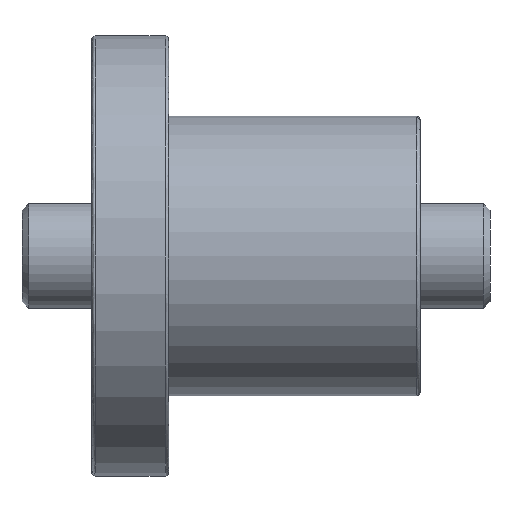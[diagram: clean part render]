
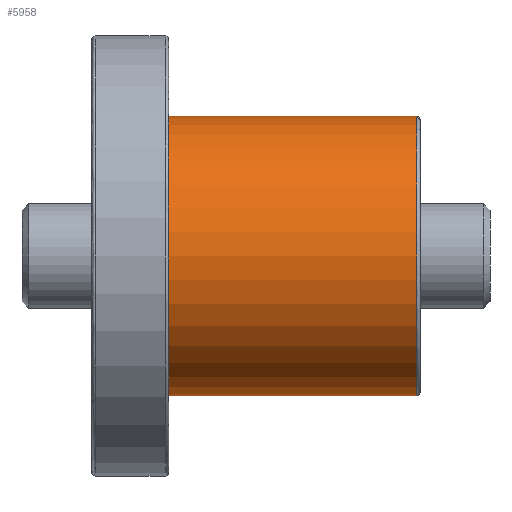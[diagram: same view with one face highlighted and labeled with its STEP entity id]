
A CAD part, front view. The second image highlights one B-rep face of the part: STEP entity #5958.
In plain terms, the highlighted cylindrical face has radius 20 mm (diameter 40 mm), a partial arc.
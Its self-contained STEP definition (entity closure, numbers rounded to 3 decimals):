
#95 = ORIENTED_EDGE ( 'NONE', *, *, #5343, .F. ) ;
#940 = VECTOR ( 'NONE', #4582, 1000. ) ;
#1010 = VERTEX_POINT ( 'NONE', #8034 ) ;
#1238 = VERTEX_POINT ( 'NONE', #3427 ) ;
#1745 = CARTESIAN_POINT ( 'NONE',  ( 11., 0., -20. ) ) ;
#2366 = LINE ( 'NONE', #4284, #3884 ) ;
#2614 = CARTESIAN_POINT ( 'NONE',  ( 11., 0., 0. ) ) ;
#2622 = EDGE_CURVE ( 'NONE', #4911, #1010, #5346, .T. ) ;
#2833 = DIRECTION ( 'NONE',  ( -1., 0., 0. ) ) ;
#2854 = CARTESIAN_POINT ( 'NONE',  ( 46.5, 0., 0. ) ) ;
#3114 = LINE ( 'NONE', #8390, #940 ) ;
#3250 = AXIS2_PLACEMENT_3D ( 'NONE', #2854, #2833, #4892 ) ;
#3297 = DIRECTION ( 'NONE',  ( 0., 0., 1. ) ) ;
#3371 = CARTESIAN_POINT ( 'NONE',  ( 47., 0., 0. ) ) ;
#3427 = CARTESIAN_POINT ( 'NONE',  ( 11., 0., 20. ) ) ;
#3809 = EDGE_CURVE ( 'NONE', #1238, #6542, #8308, .T. ) ;
#3884 = VECTOR ( 'NONE', #7435, 1000. ) ;
#3918 = DIRECTION ( 'NONE',  ( 1., 0., 0. ) ) ;
#4243 = ORIENTED_EDGE ( 'NONE', *, *, #3809, .T. ) ;
#4284 = CARTESIAN_POINT ( 'NONE',  ( 47., 0., 20. ) ) ;
#4582 = DIRECTION ( 'NONE',  ( -1., 0., 0. ) ) ;
#4668 = DIRECTION ( 'NONE',  ( 0., 0., 1. ) ) ;
#4892 = DIRECTION ( 'NONE',  ( 0., 0., 1. ) ) ;
#4911 = VERTEX_POINT ( 'NONE', #8086 ) ;
#5094 = FACE_OUTER_BOUND ( 'NONE', #8222, .T. ) ;
#5343 = EDGE_CURVE ( 'NONE', #4911, #6542, #3114, .T. ) ;
#5346 = CIRCLE ( 'NONE', #3250, 20. ) ;
#5575 = AXIS2_PLACEMENT_3D ( 'NONE', #2614, #3918, #3297 ) ;
#5958 = ADVANCED_FACE ( 'NONE', ( #5094 ), #8047, .T. ) ;
#6542 = VERTEX_POINT ( 'NONE', #1745 ) ;
#6759 = AXIS2_PLACEMENT_3D ( 'NONE', #3371, #7906, #4668 ) ;
#6925 = EDGE_CURVE ( 'NONE', #1010, #1238, #2366, .T. ) ;
#7401 = ORIENTED_EDGE ( 'NONE', *, *, #6925, .T. ) ;
#7435 = DIRECTION ( 'NONE',  ( -1., 0., 0. ) ) ;
#7896 = ORIENTED_EDGE ( 'NONE', *, *, #2622, .T. ) ;
#7906 = DIRECTION ( 'NONE',  ( -1., 0., 0. ) ) ;
#8034 = CARTESIAN_POINT ( 'NONE',  ( 46.5, 0., 20. ) ) ;
#8047 = CYLINDRICAL_SURFACE ( 'NONE', #6759, 20. ) ;
#8086 = CARTESIAN_POINT ( 'NONE',  ( 46.5, 0., -20. ) ) ;
#8222 = EDGE_LOOP ( 'NONE', ( #95, #7896, #7401, #4243 ) ) ;
#8308 = CIRCLE ( 'NONE', #5575, 20. ) ;
#8390 = CARTESIAN_POINT ( 'NONE',  ( 47., 0., -20. ) ) ;
